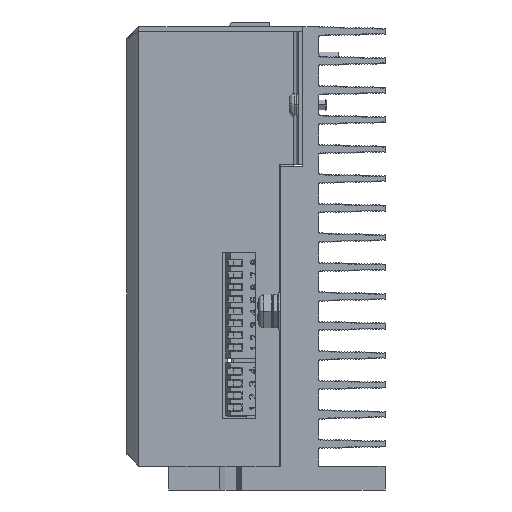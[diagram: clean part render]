
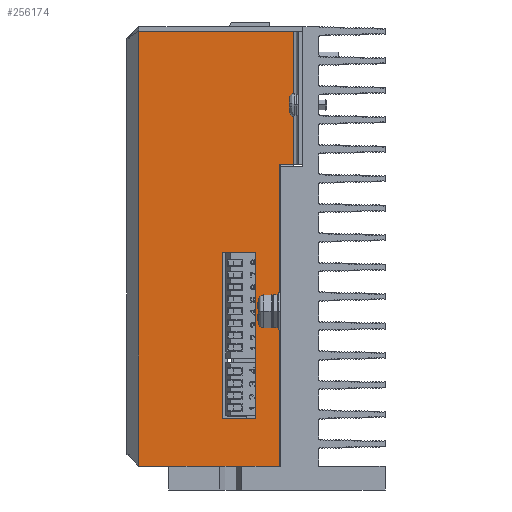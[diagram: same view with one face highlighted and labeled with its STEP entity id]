
A CAD part, left-side view. The second image highlights one B-rep face of the part: STEP entity #256174.
In plain terms, the highlighted planar face has unit normal (-1, 0, 0).
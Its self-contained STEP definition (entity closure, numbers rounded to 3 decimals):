
#254397=DIRECTION('',(0.,0.,1.));
#254398=VECTOR('',#254397,91.5);
#254399=CARTESIAN_POINT('',(-73.,34.5,-46.));
#254400=LINE('',#254399,#254398);
#254435=DIRECTION('',(0.,1.,0.));
#254436=VECTOR('',#254435,15.);
#254437=CARTESIAN_POINT('',(-73.,5.,-46.));
#254438=LINE('',#254437,#254436);
#254442=DIRECTION('',(0.,0.,1.));
#254443=VECTOR('',#254442,2.);
#254444=CARTESIAN_POINT('',(-73.,20.,-48.));
#254445=LINE('',#254444,#254443);
#254449=DIRECTION('',(0.,-1.,0.));
#254450=VECTOR('',#254449,3.5);
#254451=CARTESIAN_POINT('',(-73.,23.5,-48.));
#254452=LINE('',#254451,#254450);
#254456=DIRECTION('',(0.,0.,-1.));
#254457=VECTOR('',#254456,2.);
#254458=CARTESIAN_POINT('',(-73.,23.5,-46.));
#254459=LINE('',#254458,#254457);
#254463=DIRECTION('',(0.,1.,0.));
#254464=VECTOR('',#254463,11.);
#254465=CARTESIAN_POINT('',(-73.,23.5,-46.));
#254466=LINE('',#254465,#254464);
#254470=DIRECTION('',(0.,-1.,0.));
#254471=VECTOR('',#254470,32.5);
#254472=CARTESIAN_POINT('',(-73.,34.5,45.5));
#254473=LINE('',#254472,#254471);
#254477=DIRECTION('',(0.,1.,0.));
#254478=VECTOR('',#254477,3.);
#254479=CARTESIAN_POINT('',(-73.,2.,17.5));
#254480=LINE('',#254479,#254478);
#254484=DIRECTION('',(0.,0.,1.));
#254485=VECTOR('',#254484,63.5);
#254486=CARTESIAN_POINT('',(-73.,5.,-46.));
#254487=LINE('',#254486,#254485);
#254491=DIRECTION('',(0.,-1.,0.));
#254492=VECTOR('',#254491,7.);
#254493=CARTESIAN_POINT('',(-73.,17.,-1.));
#254494=LINE('',#254493,#254492);
#254498=DIRECTION('',(0.,0.,1.));
#254499=VECTOR('',#254498,35.);
#254500=CARTESIAN_POINT('',(-73.,17.,-36.));
#254501=LINE('',#254500,#254499);
#254505=DIRECTION('',(0.,1.,0.));
#254506=VECTOR('',#254505,7.);
#254507=CARTESIAN_POINT('',(-73.,10.,-36.));
#254508=LINE('',#254507,#254506);
#254512=DIRECTION('',(0.,0.,-1.));
#254513=VECTOR('',#254512,35.);
#254514=CARTESIAN_POINT('',(-73.,10.,-1.));
#254515=LINE('',#254514,#254513);
#255746=DIRECTION('',(0.,0.,-1.));
#255747=VECTOR('',#255746,28.);
#255748=CARTESIAN_POINT('',(-73.,2.,45.5));
#255749=LINE('',#255748,#255747);
#255931=CARTESIAN_POINT('',(-73.,34.5,-46.));
#255932=CARTESIAN_POINT('',(-73.,34.5,45.5));
#255933=VERTEX_POINT('',#255931);
#255934=VERTEX_POINT('',#255932);
#255939=CARTESIAN_POINT('',(-73.,5.,-46.));
#255941=VERTEX_POINT('',#255939);
#255951=CARTESIAN_POINT('',(-73.,23.5,-46.));
#255952=CARTESIAN_POINT('',(-73.,23.5,-48.));
#255953=VERTEX_POINT('',#255951);
#255954=VERTEX_POINT('',#255952);
#255955=CARTESIAN_POINT('',(-73.,20.,-48.));
#255956=VERTEX_POINT('',#255955);
#255957=CARTESIAN_POINT('',(-73.,20.,-46.));
#255958=VERTEX_POINT('',#255957);
#255999=CARTESIAN_POINT('',(-73.,2.,45.5));
#256000=VERTEX_POINT('',#255999);
#256001=CARTESIAN_POINT('',(-73.,2.,17.5));
#256002=VERTEX_POINT('',#256001);
#256079=CARTESIAN_POINT('',(-73.,17.,-1.));
#256080=CARTESIAN_POINT('',(-73.,10.,-1.));
#256081=VERTEX_POINT('',#256079);
#256082=VERTEX_POINT('',#256080);
#256083=CARTESIAN_POINT('',(-73.,10.,-36.));
#256084=VERTEX_POINT('',#256083);
#256085=CARTESIAN_POINT('',(-73.,17.,-36.));
#256086=VERTEX_POINT('',#256085);
#256099=CARTESIAN_POINT('',(-73.,5.,17.5));
#256100=VERTEX_POINT('',#256099);
#256138=CARTESIAN_POINT('',(-73.,37.,44.));
#256139=DIRECTION('',(1.,0.,0.));
#256140=DIRECTION('',(0.,0.,1.));
#256141=AXIS2_PLACEMENT_3D('',#256138,#256139,#256140);
#256142=PLANE('',#256141);
#256144=ORIENTED_EDGE('',*,*,#256143,.T.);
#256146=ORIENTED_EDGE('',*,*,#256145,.F.);
#256148=ORIENTED_EDGE('',*,*,#256147,.F.);
#256150=ORIENTED_EDGE('',*,*,#256149,.F.);
#256152=ORIENTED_EDGE('',*,*,#256151,.T.);
#256153=ORIENTED_EDGE('',*,*,#256128,.T.);
#256155=ORIENTED_EDGE('',*,*,#256154,.T.);
#256157=ORIENTED_EDGE('',*,*,#256156,.T.);
#256159=ORIENTED_EDGE('',*,*,#256158,.T.);
#256161=ORIENTED_EDGE('',*,*,#256160,.F.);
#256162=EDGE_LOOP('',(#256144,#256146,#256148,#256150,#256152,#256153,#256155,
#256157,#256159,#256161));
#256163=FACE_OUTER_BOUND('',#256162,.F.);
#256165=ORIENTED_EDGE('',*,*,#256164,.F.);
#256167=ORIENTED_EDGE('',*,*,#256166,.F.);
#256169=ORIENTED_EDGE('',*,*,#256168,.F.);
#256171=ORIENTED_EDGE('',*,*,#256170,.F.);
#256172=EDGE_LOOP('',(#256165,#256167,#256169,#256171));
#256173=FACE_BOUND('',#256172,.F.);
#256128=EDGE_CURVE('',#255933,#255934,#254400,.T.);
#256143=EDGE_CURVE('',#255941,#255958,#254438,.T.);
#256145=EDGE_CURVE('',#255956,#255958,#254445,.T.);
#256147=EDGE_CURVE('',#255954,#255956,#254452,.T.);
#256149=EDGE_CURVE('',#255953,#255954,#254459,.T.);
#256151=EDGE_CURVE('',#255953,#255933,#254466,.T.);
#256154=EDGE_CURVE('',#255934,#256000,#254473,.T.);
#256156=EDGE_CURVE('',#256000,#256002,#255749,.T.);
#256158=EDGE_CURVE('',#256002,#256100,#254480,.T.);
#256160=EDGE_CURVE('',#255941,#256100,#254487,.T.);
#256164=EDGE_CURVE('',#256081,#256082,#254494,.T.);
#256166=EDGE_CURVE('',#256086,#256081,#254501,.T.);
#256168=EDGE_CURVE('',#256084,#256086,#254508,.T.);
#256170=EDGE_CURVE('',#256082,#256084,#254515,.T.);
#256174=ADVANCED_FACE('',(#256163,#256173),#256142,.F.);
